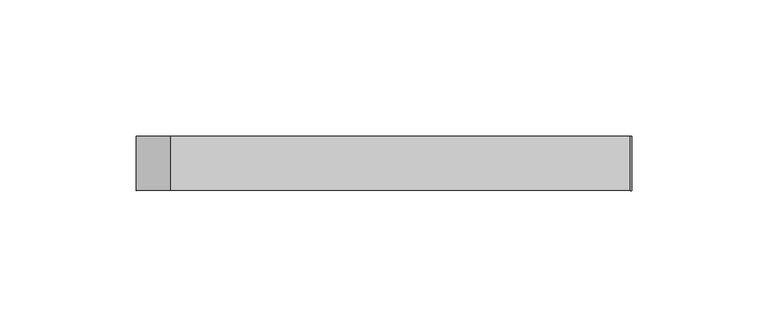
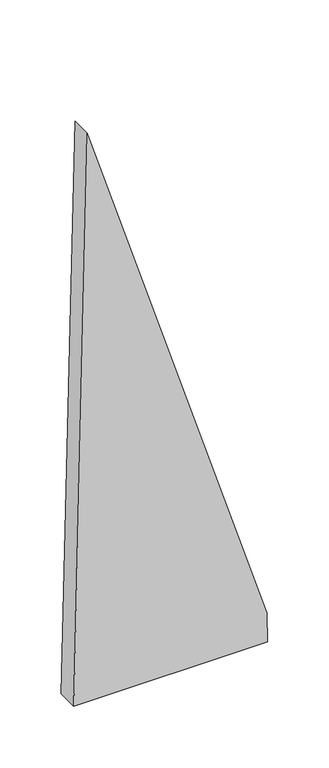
"""IFC4 building model written with IfcOpenShell, lengths in millimetres: plate geometry, 空系统嵌板 : 空."""

from ifc_helpers import new_model, si_unit, frame, origin, place, context, project, spatial, polyline, outline, extrude, source, transform, mapped, element, save


def plate_6c5d32f2(model_context):
    return source(origin(), model_context, "Body", "SweptSolid", [
        extrude(outline(polyline([(0.0, -91.1139863), (0.0, 91.1139863), (28.9156214, 90.4953863), (564.9332368, -78.2869615), (0.0, -91.1139863)])), frame((0.0, -10.0, 0.0), z_axis=(0.0, 1.0, 0.0), x_axis=(0.0, 0.0, 1.0)), (0.0, 0.0, 1.0), 20.0),
    ])


if __name__ == "__main__":
    model = new_model("IFC4")
    model_context = context("Model", 3, world=origin())
    ifc_project = project(units=[si_unit("LENGTHUNIT", "METRE", prefix="MILLI")], contexts=[model_context])
    site = spatial("IfcSite", under=ifc_project)
    building = spatial("IfcBuilding", under=site)
    placement = place(None, origin())
    plate_shape = plate_6c5d32f2(model_context)
    element("IfcPlate", 1, ObjectType="空系统嵌板 : 空", at=placement, inside=building, context=model_context, shape_type="MappedRepresentation", body=[
        mapped(plate_shape, transform((0.0, 0.0, 0.0), x_axis=(1.0, 0.0, 0.0), y_axis=(0.0, 1.0, 0.0), z_axis=(0.0, 0.0, 1.0))),
    ])
    save(model, "model.ifc")
